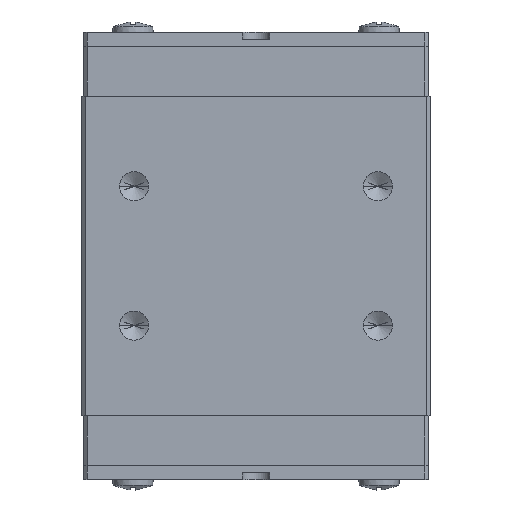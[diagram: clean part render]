
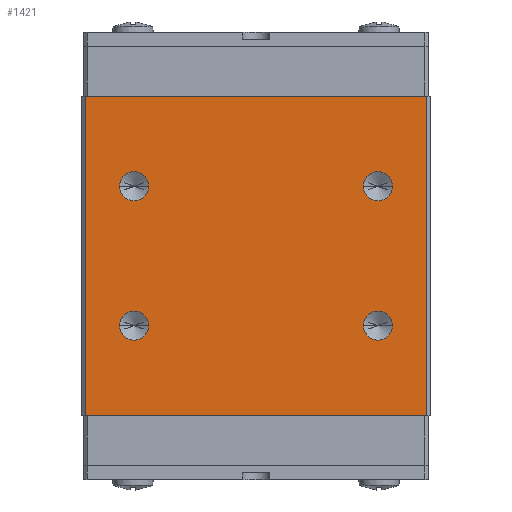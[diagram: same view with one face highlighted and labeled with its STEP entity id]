
A CAD part, top view. The second image highlights one B-rep face of the part: STEP entity #1421.
In plain terms, the highlighted planar face has unit normal (0, 0, 1).
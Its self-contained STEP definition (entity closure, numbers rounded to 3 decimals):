
#1267=EDGE_CURVE('',#2053,#1639,#3417,.T.);
#1315=VERTEX_POINT('',#3469);
#1421=ADVANCED_FACE('',(#3588,#3589,#3590,#3591,#3592),#3593,.T.);
#1613=VERTEX_POINT('',#3805);
#1639=VERTEX_POINT('',#3834);
#1735=EDGE_CURVE('',#2593,#2983,#3939,.T.);
#1765=EDGE_CURVE('',#2957,#2303,#3972,.T.);
#1809=EDGE_CURVE('',#2691,#1315,#4020,.T.);
#2053=VERTEX_POINT('',#4284);
#2085=EDGE_CURVE('',#2691,#2885,#4319,.T.);
#2165=EDGE_CURVE('',#2913,#1613,#4409,.T.);
#2303=VERTEX_POINT('',#4560);
#2347=EDGE_CURVE('',#1315,#2647,#4607,.T.);
#2593=VERTEX_POINT('',#4877);
#2619=EDGE_CURVE('',#2303,#2957,#4908,.T.);
#2647=VERTEX_POINT('',#4937);
#2689=EDGE_CURVE('',#2885,#2647,#4986,.T.);
#2691=VERTEX_POINT('',#4988);
#2733=EDGE_CURVE('',#1639,#2053,#5035,.T.);
#2763=EDGE_CURVE('',#1613,#2913,#5067,.T.);
#2885=VERTEX_POINT('',#5199);
#2913=VERTEX_POINT('',#5229);
#2947=EDGE_CURVE('',#2983,#2593,#5264,.T.);
#2957=VERTEX_POINT('',#5274);
#2983=VERTEX_POINT('',#5303);
#3417=CIRCLE('',#5873,1.25);
#3469=CARTESIAN_POINT('',(14.7,33.05,12.0));
#3588=FACE_BOUND('',#6109,.T.);
#3589=FACE_BOUND('',#6110,.T.);
#3590=FACE_BOUND('',#6111,.T.);
#3591=FACE_BOUND('',#6112,.T.);
#3592=FACE_OUTER_BOUND('',#6113,.T.);
#3593=PLANE('',#6114);
#3805=CARTESIAN_POINT('',(11.75,13.3,12.0));
#3834=CARTESIAN_POINT('',(9.25,25.3,12.0));
#3939=CIRCLE('',#6687,1.25);
#3972=CIRCLE('',#6744,1.25);
#4020=LINE('',#6825,#6826);
#4284=CARTESIAN_POINT('',(11.75,25.3,12.0));
#4319=LINE('',#7346,#7347);
#4409=CIRCLE('',#7478,1.25);
#4560=CARTESIAN_POINT('',(-11.75,25.3,12.0));
#4607=LINE('',#7777,#7778);
#4877=CARTESIAN_POINT('',(-11.75,13.3,12.0));
#4908=CIRCLE('',#8258,1.25);
#4937=CARTESIAN_POINT('',(14.7,5.55,12.0));
#4986=LINE('',#8359,#8360);
#4988=CARTESIAN_POINT('',(-14.7,33.05,12.0));
#5035=CIRCLE('',#8445,1.25);
#5067=CIRCLE('',#8515,1.25);
#5199=CARTESIAN_POINT('',(-14.7,5.55,12.0));
#5229=CARTESIAN_POINT('',(9.25,13.3,12.0));
#5264=CIRCLE('',#8822,1.25);
#5274=CARTESIAN_POINT('',(-9.25,25.3,12.0));
#5303=CARTESIAN_POINT('',(-9.25,13.3,12.0));
#5873=AXIS2_PLACEMENT_3D('',#9490,#9491,#9492);
#6109=EDGE_LOOP('',(#9716,#9717));
#6110=EDGE_LOOP('',(#9718,#9719));
#6111=EDGE_LOOP('',(#9720,#9721));
#6112=EDGE_LOOP('',(#9722,#9723));
#6113=EDGE_LOOP('',(#9724,#9725,#9726,#9727));
#6114=AXIS2_PLACEMENT_3D('',#9728,#9729,#9730);
#6687=AXIS2_PLACEMENT_3D('',#10099,#10100,#10101);
#6744=AXIS2_PLACEMENT_3D('',#10152,#10153,#10154);
#6825=CARTESIAN_POINT('',(-14.7,33.05,12.0));
#6826=VECTOR('',#10199,1.0);
#7346=CARTESIAN_POINT('',(-14.7,33.05,12.0));
#7347=VECTOR('',#10455,1.0);
#7478=AXIS2_PLACEMENT_3D('',#10555,#10556,#10557);
#7777=CARTESIAN_POINT('',(14.7,33.05,12.0));
#7778=VECTOR('',#10757,1.0);
#8258=AXIS2_PLACEMENT_3D('',#11072,#11073,#11074);
#8359=CARTESIAN_POINT('',(-14.7,5.55,12.0));
#8360=VECTOR('',#11168,1.0);
#8445=AXIS2_PLACEMENT_3D('',#11225,#11226,#11227);
#8515=AXIS2_PLACEMENT_3D('',#11257,#11258,#11259);
#8822=AXIS2_PLACEMENT_3D('',#11419,#11420,#11421);
#9490=CARTESIAN_POINT('',(10.5,25.3,12.0));
#9491=DIRECTION('',(0.0,0.0,-1.0));
#9492=DIRECTION('',(1.0,0.0,0.0));
#9716=ORIENTED_EDGE('',*,*,#1267,.T.);
#9717=ORIENTED_EDGE('',*,*,#2733,.T.);
#9718=ORIENTED_EDGE('',*,*,#2763,.T.);
#9719=ORIENTED_EDGE('',*,*,#2165,.T.);
#9720=ORIENTED_EDGE('',*,*,#1765,.T.);
#9721=ORIENTED_EDGE('',*,*,#2619,.T.);
#9722=ORIENTED_EDGE('',*,*,#2947,.T.);
#9723=ORIENTED_EDGE('',*,*,#1735,.T.);
#9724=ORIENTED_EDGE('',*,*,#2689,.T.);
#9725=ORIENTED_EDGE('',*,*,#2347,.F.);
#9726=ORIENTED_EDGE('',*,*,#1809,.F.);
#9727=ORIENTED_EDGE('',*,*,#2085,.T.);
#9728=CARTESIAN_POINT('',(-14.7,33.05,12.0));
#9729=DIRECTION('',(0.0,0.0,1.0));
#9730=DIRECTION('',(-1.0,0.0,-0.0));
#10099=CARTESIAN_POINT('',(-10.5,13.3,12.0));
#10100=DIRECTION('',(0.0,0.0,-1.0));
#10101=DIRECTION('',(1.0,0.0,0.0));
#10152=CARTESIAN_POINT('',(-10.5,25.3,12.0));
#10153=DIRECTION('',(0.0,0.0,-1.0));
#10154=DIRECTION('',(1.0,0.0,0.0));
#10199=DIRECTION('',(1.0,0.0,0.0));
#10455=DIRECTION('',(0.0,-1.0,0.0));
#10555=CARTESIAN_POINT('',(10.5,13.3,12.0));
#10556=DIRECTION('',(0.0,0.0,-1.0));
#10557=DIRECTION('',(1.0,0.0,0.0));
#10757=DIRECTION('',(0.0,-1.0,0.0));
#11072=CARTESIAN_POINT('',(-10.5,25.3,12.0));
#11073=DIRECTION('',(0.0,0.0,-1.0));
#11074=DIRECTION('',(1.0,0.0,0.0));
#11168=DIRECTION('',(1.0,0.0,0.0));
#11225=CARTESIAN_POINT('',(10.5,25.3,12.0));
#11226=DIRECTION('',(0.0,0.0,-1.0));
#11227=DIRECTION('',(1.0,0.0,0.0));
#11257=CARTESIAN_POINT('',(10.5,13.3,12.0));
#11258=DIRECTION('',(0.0,0.0,-1.0));
#11259=DIRECTION('',(1.0,0.0,0.0));
#11419=CARTESIAN_POINT('',(-10.5,13.3,12.0));
#11420=DIRECTION('',(0.0,0.0,-1.0));
#11421=DIRECTION('',(1.0,0.0,0.0));
